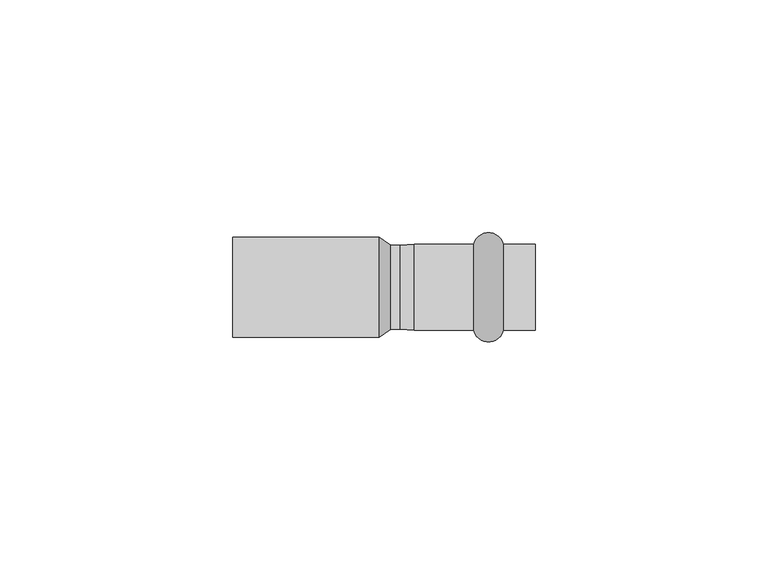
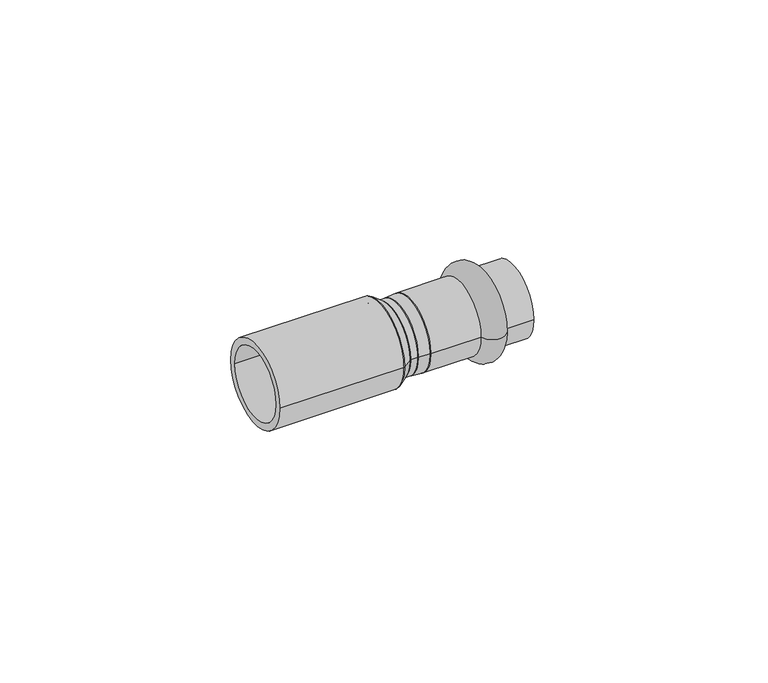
"""IFC4 building model written with IfcOpenShell, lengths in millimetres: pipe fitting geometry, VALTEC_VTi.905.I_Вставка переходная_Нержавеющая сталь : VTi.905.I."""

from ifc_helpers import new_model, si_unit, point, frame, origin, origin_2d, place, context, project, spatial, polyline, circle_curve, ellipse_curve, trimmed, segment, composite_curve, outline, extrude, source, transform, mapped, element, save
from ifc_brep_helpers import plane_surface, cylinder_surface, revolved_surface, advanced_brep


def pipe_fitting_772a5280(model_context):
    return source(origin(), model_context, "Body", "SolidModel", [
        advanced_brep(
        [(25.6122777, -9.25, 0.0), (19.2877223, -9.25, 0.0), (19.2877223, 9.25, 0.0), (25.6122777, 9.25, 0.0), (32.5, -9.25, 0.0), (32.5, 9.25, 0.0), (32.5, -7.5, 0.0), (32.5, 7.5, 0.0), (6.5, -7.5, 0.0), (6.5, 7.5, 0.0), (6.5, -9.25, 0.0), (6.5, 9.25, 0.0)],
        [
            (0, 1, circle_curve(frame((22.45, -8.5, 0.0), z_axis=(0.0, 0.0, -1.0), x_axis=(-1.0, 0.0, 0.0)), 3.25)),
            (1, 2, circle_curve(frame((19.2877223, 0.0, 0.0), z_axis=(1.0, 0.0, 0.0), x_axis=(0.0, 1.0, 0.0)), 9.25)),
            (2, 3, circle_curve(frame((22.45, 8.5, 0.0), z_axis=(0.0, 0.0, -1.0), x_axis=(-1.0, 0.0, 0.0)), 3.25)),
            (3, 0, circle_curve(frame((25.6122777, 0.0, 0.0), z_axis=(-1.0, 0.0, 0.0), x_axis=(0.0, 1.0, 0.0)), 9.25)),
            (2, 1, circle_curve(frame((19.2877223, 0.0, 0.0), z_axis=(1.0, 0.0, 0.0), x_axis=(0.0, 1.0, 0.0)), 9.25)),
            (0, 3, circle_curve(frame((25.6122777, 0.0, 0.0), z_axis=(-1.0, 0.0, 0.0), x_axis=(0.0, 1.0, 0.0)), 9.25)),
            (4, 0),
            (3, 5),
            (5, 4, circle_curve(frame((32.5, 0.0, 0.0), z_axis=(-1.0, 0.0, 0.0), x_axis=(0.0, 1.0, 0.0)), 9.25)),
            (4, 5, circle_curve(frame((32.5, 0.0, 0.0), z_axis=(-1.0, 0.0, 0.0), x_axis=(0.0, 1.0, 0.0)), 9.25)),
            (6, 4),
            (5, 7),
            (7, 6, circle_curve(frame((32.5, 0.0, 0.0), z_axis=(-1.0, 0.0, 0.0), x_axis=(0.0, 1.0, 0.0)), 7.5)),
            (6, 7, circle_curve(frame((32.5, 0.0, 0.0), z_axis=(-1.0, 0.0, 0.0), x_axis=(0.0, 1.0, 0.0)), 7.5)),
            (8, 6),
            (7, 9),
            (9, 8, circle_curve(frame((6.5, 0.0, 0.0), z_axis=(-1.0, 0.0, 0.0), x_axis=(0.0, 1.0, 0.0)), 7.5)),
            (8, 9, circle_curve(frame((6.5, 0.0, 0.0), z_axis=(-1.0, 0.0, 0.0), x_axis=(0.0, 1.0, 0.0)), 7.5)),
            (10, 8),
            (9, 11),
            (11, 10, circle_curve(frame((6.5, 0.0, 0.0), z_axis=(-1.0, 0.0, 0.0), x_axis=(0.0, 1.0, 0.0)), 9.25)),
            (10, 11, circle_curve(frame((6.5, 0.0, 0.0), z_axis=(-1.0, 0.0, 0.0), x_axis=(0.0, 1.0, 0.0)), 9.25)),
            (1, 10),
            (11, 2),
        ],
        [
            revolved_surface(trimmed(ellipse_curve(frame((22.45, 8.5, 0.0), z_axis=(0.0, 0.0, -1.0), x_axis=(-1.0, 0.0, 0.0)), 3.25, 3.25), [point((19.2877223, 9.25, 0.0))], [point((25.6122777, 9.25, 0.0))], True, "CARTESIAN"), (36.0364426, 0.0, 0.0), (1.0, 0.0, 0.0)),
            cylinder_surface(frame((36.0364426, 0.0, 0.0), z_axis=(1.0, 0.0, 0.0), x_axis=(0.0, 1.0, 0.0)), 9.25),
            plane_surface(frame((32.5, 0.0, 0.0), z_axis=(1.0, 0.0, 0.0), x_axis=(0.0, 1.0, 0.0))),
            revolved_surface(polyline([(32.5, 7.5, 0.0), (6.5, 7.5, 0.0)]), (36.0364426, 0.0, 0.0), (1.0, 0.0, 0.0)),
            plane_surface(frame((6.5, 0.0, 0.0), z_axis=(-1.0, 0.0, 0.0), x_axis=(0.0, 1.0, 0.0))),
        ],
        [
            (0, [[1, 2, 3, 4]]),
            (0, [[-3, 5, -1, 6]]),
            (1, [[7, -4, 8, 9]]),
            (1, [[-8, -6, -7, 10]]),
            (2, [[11, -9, 12, 13]]),
            (2, [[-12, -10, -11, 14]]),
            (3, [[15, -13, 16, 17]]),
            (3, [[-16, -14, -15, 18]]),
            (4, [[19, -17, 20, 21]]),
            (4, [[-20, -18, -19, 22]]),
            (1, [[23, -21, 24, -2]]),
            (1, [[-24, -22, -23, -5]]),
        ],
    ),
        advanced_brep(
        [(3.5, -9.0, 0.0), (3.5, 9.0, 0.0), (6.5, -9.25, 0.0), (6.5, 9.25, 0.0)],
        [
            (0, 1, circle_curve(frame((3.5, 0.0, 0.0), z_axis=(-1.0, 0.0, 0.0), x_axis=(0.0, -1.0, 0.0)), 9.0)),
            (1, 0, circle_curve(frame((3.5, 0.0, 0.0), z_axis=(-1.0, 0.0, 0.0), x_axis=(0.0, 1.0, 0.0)), 9.0)),
            (2, 3, circle_curve(frame((6.5, 0.0, 0.0), z_axis=(1.0, 0.0, 0.0), x_axis=(0.0, 1.0, 0.0)), 9.25)),
            (3, 2, circle_curve(frame((6.5, 0.0, 0.0), z_axis=(1.0, 0.0, 0.0), x_axis=(0.0, -1.0, 0.0)), 9.25)),
            (2, 0),
            (1, 3),
        ],
        [
            plane_surface(frame((3.5, 0.0, 0.0), z_axis=(-1.0, 0.0, 0.0), x_axis=(0.0, 0.0, 1.0))),
            plane_surface(frame((6.5, 0.0, 0.0), z_axis=(1.0, 0.0, 0.0), x_axis=(0.0, 0.0, 1.0))),
            revolved_surface(polyline([(3.5, 9.0, 0.0), (6.5, 9.25, 0.0)]), (-104.5, 0.0, 0.0), (1.0, 0.0, 0.0)),
            revolved_surface(polyline([(3.5, -9.0, 0.0), (6.5, -9.25, 0.0)]), (-104.5, 0.0, 0.0), (1.0, 0.0, 0.0)),
        ],
        [
            (0, [[1, 2]]),
            (1, [[3, 4]]),
            (2, [[-3, 5, -2, 6]]),
            (3, [[-4, -6, -1, -5]]),
        ],
    ),
        extrude(outline(composite_curve([segment(trimmed(circle_curve(origin_2d(), 9.0), [point((-9.0, 0.0))], [point((9.0, 0.0))], False, "CARTESIAN"), True, "CONTINUOUS"), segment(trimmed(circle_curve(origin_2d(), 9.0), [point((9.0, 0.0))], [point((-9.0, 0.0))], False, "CARTESIAN"), True, "CONTINUOUS")], self_intersect=False)), frame((1.5, 0.0, 0.0), z_axis=(1.0, 0.0, 0.0), x_axis=(0.0, 1.0, 0.0)), (0.0, 0.0, 1.0), 2.0),
        advanced_brep(
        [(1.5, -9.0, 0.0), (1.5, 9.0, 0.0), (-1.0, -10.75, 0.0), (-1.0, 10.75, 0.0)],
        [
            (0, 1, circle_curve(frame((1.5, 0.0, 0.0), z_axis=(1.0, 0.0, 0.0), x_axis=(0.0, -1.0, 0.0)), 9.0)),
            (1, 0, circle_curve(frame((1.5, 0.0, 0.0), z_axis=(1.0, 0.0, 0.0), x_axis=(0.0, 1.0, 0.0)), 9.0)),
            (2, 3, circle_curve(frame((-1.0, 0.0, 0.0), z_axis=(-1.0, 0.0, 0.0), x_axis=(0.0, 1.0, 0.0)), 10.75)),
            (3, 2, circle_curve(frame((-1.0, 0.0, 0.0), z_axis=(-1.0, 0.0, 0.0), x_axis=(0.0, -1.0, 0.0)), 10.75)),
            (3, 1),
            (0, 2),
        ],
        [
            plane_surface(frame((1.5, 0.0, 0.0), z_axis=(1.0, 0.0, 0.0), x_axis=(0.0, 0.0, -1.0))),
            plane_surface(frame((-1.0, 0.0, 0.0), z_axis=(-1.0, 0.0, 0.0), x_axis=(0.0, 0.0, -1.0))),
            revolved_surface(polyline([(1.5, -9.000000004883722, 0.0), (-1.0, -10.75, 0.0)]), (14.3571429, 0.0, 0.0), (-1.0, 0.0, 0.0)),
            revolved_surface(polyline([(1.5, 9.000000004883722, 0.0), (-1.0, 10.75, 0.0)]), (14.3571429, 0.0, 0.0), (-1.0, 0.0, 0.0)),
        ],
        [
            (0, [[1, 2]]),
            (1, [[3, 4]]),
            (2, [[-4, 5, -1, 6]]),
            (3, [[-3, -6, -2, -5]]),
        ],
    ),
        extrude(outline(composite_curve([segment(trimmed(circle_curve(origin_2d(), 10.75), [point((-10.75, 0.0))], [point((10.75, 0.0))], False, "CARTESIAN"), True, "CONTINUOUS"), segment(trimmed(circle_curve(origin_2d(), 10.75), [point((10.75, 0.0))], [point((-10.75, 0.0))], False, "CARTESIAN"), True, "CONTINUOUS")], self_intersect=False), holes=[composite_curve([segment(trimmed(circle_curve(origin_2d(), 9.0), [point((-9.0, 0.0))], [point((9.0, 0.0))], True, "CARTESIAN"), True, "CONTINUOUS"), segment(trimmed(circle_curve(origin_2d(), 9.0), [point((9.0, 0.0))], [point((-9.0, 0.0))], True, "CARTESIAN"), True, "CONTINUOUS")], self_intersect=False)]), frame((-32.5, 0.0, 0.0), z_axis=(1.0, 0.0, 0.0), x_axis=(0.0, 1.0, 0.0)), (0.0, 0.0, 1.0), 31.5),
    ])


if __name__ == "__main__":
    model = new_model("IFC4")
    model_context = context("Model", 3, world=origin())
    ifc_project = project(units=[si_unit("LENGTHUNIT", "METRE", prefix="MILLI")], contexts=[model_context])
    site = spatial("IfcSite", under=ifc_project)
    building = spatial("IfcBuilding", under=site)
    placement = place(None, origin())
    pipe_fitting_shape = pipe_fitting_772a5280(model_context)
    element("IfcPipeFitting", 1, ObjectType="VALTEC_VTi.905.I_Вставка переходная_Нержавеющая сталь : VTi.905.I", at=placement, inside=building, context=model_context, shape_type="MappedRepresentation", body=[
        mapped(pipe_fitting_shape, transform((0.0, 0.0, 0.0), x_axis=(1.0, 0.0, 0.0), y_axis=(0.0, 1.0, 0.0), z_axis=(0.0, 0.0, 1.0))),
    ])
    save(model, "model.ifc")
